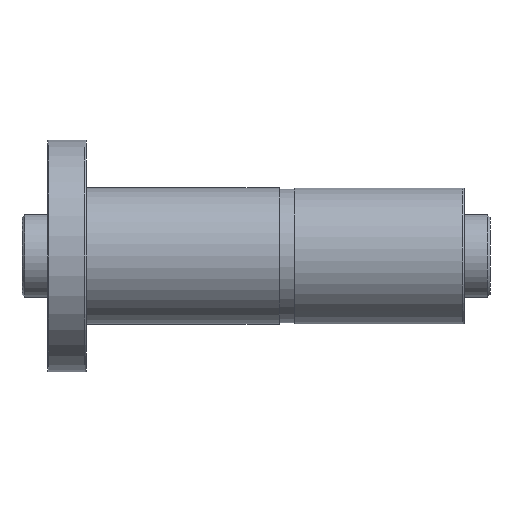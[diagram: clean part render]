
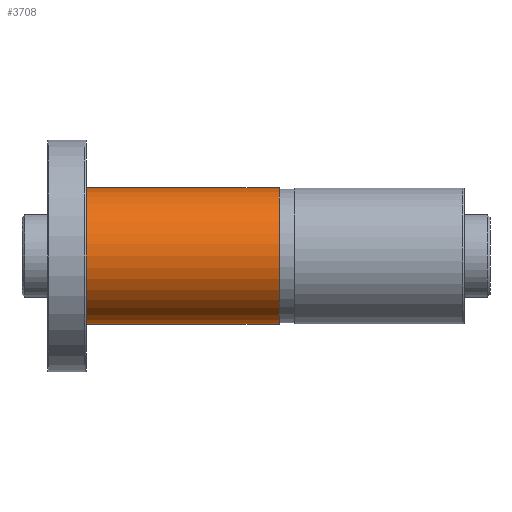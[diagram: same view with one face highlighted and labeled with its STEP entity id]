
A CAD part, front view. The second image highlights one B-rep face of the part: STEP entity #3708.
In plain terms, the highlighted cylindrical face has radius 26.5 mm (diameter 53 mm), a partial arc.
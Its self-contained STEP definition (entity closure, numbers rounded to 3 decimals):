
#3 = VECTOR ( 'NONE', #4149, 1000. ) ;
#130 = CIRCLE ( 'NONE', #582, 26.5 ) ;
#179 = CARTESIAN_POINT ( 'NONE',  ( 15., 0., -26.5 ) ) ;
#394 = VERTEX_POINT ( 'NONE', #3265 ) ;
#408 = EDGE_CURVE ( 'NONE', #1780, #3677, #3908, .T. ) ;
#567 = DIRECTION ( 'NONE',  ( 1., 0., 0. ) ) ;
#582 = AXIS2_PLACEMENT_3D ( 'NONE', #1966, #1137, #3882 ) ;
#951 = EDGE_LOOP ( 'NONE', ( #3409, #2330, #4593, #4761 ) ) ;
#1137 = DIRECTION ( 'NONE',  ( 1., 0., 0. ) ) ;
#1355 = CARTESIAN_POINT ( 'NONE',  ( 126.953, 0., 0. ) ) ;
#1369 = DIRECTION ( 'NONE',  ( -1., 0., 0. ) ) ;
#1373 = CARTESIAN_POINT ( 'NONE',  ( 15., 0., 0. ) ) ;
#1567 = EDGE_CURVE ( 'NONE', #394, #1780, #4546, .T. ) ;
#1780 = VERTEX_POINT ( 'NONE', #3761 ) ;
#1782 = EDGE_CURVE ( 'NONE', #3546, #3677, #1875, .T. ) ;
#1875 = LINE ( 'NONE', #4622, #4919 ) ;
#1966 = CARTESIAN_POINT ( 'NONE',  ( 90., 0., 0. ) ) ;
#2016 = AXIS2_PLACEMENT_3D ( 'NONE', #1373, #567, #4067 ) ;
#2131 = EDGE_CURVE ( 'NONE', #394, #3546, #130, .T. ) ;
#2330 = ORIENTED_EDGE ( 'NONE', *, *, #2131, .F. ) ;
#2500 = CYLINDRICAL_SURFACE ( 'NONE', #3222, 26.5 ) ;
#2502 = CARTESIAN_POINT ( 'NONE',  ( 126.953, 0., 26.5 ) ) ;
#3222 = AXIS2_PLACEMENT_3D ( 'NONE', #1355, #1369, #3330 ) ;
#3265 = CARTESIAN_POINT ( 'NONE',  ( 90., 0., 26.5 ) ) ;
#3330 = DIRECTION ( 'NONE',  ( 0., 0., 1. ) ) ;
#3409 = ORIENTED_EDGE ( 'NONE', *, *, #1782, .F. ) ;
#3506 = DIRECTION ( 'NONE',  ( -1., 0., 0. ) ) ;
#3546 = VERTEX_POINT ( 'NONE', #3660 ) ;
#3660 = CARTESIAN_POINT ( 'NONE',  ( 90., 0., -26.5 ) ) ;
#3677 = VERTEX_POINT ( 'NONE', #179 ) ;
#3708 = ADVANCED_FACE ( 'NONE', ( #4802 ), #2500, .T. ) ;
#3761 = CARTESIAN_POINT ( 'NONE',  ( 15., 0., 26.5 ) ) ;
#3882 = DIRECTION ( 'NONE',  ( 0., 0., -1. ) ) ;
#3908 = CIRCLE ( 'NONE', #2016, 26.5 ) ;
#4067 = DIRECTION ( 'NONE',  ( 0., 0., 1. ) ) ;
#4149 = DIRECTION ( 'NONE',  ( -1., 0., 0. ) ) ;
#4546 = LINE ( 'NONE', #2502, #3 ) ;
#4593 = ORIENTED_EDGE ( 'NONE', *, *, #1567, .T. ) ;
#4622 = CARTESIAN_POINT ( 'NONE',  ( 126.953, 0., -26.5 ) ) ;
#4761 = ORIENTED_EDGE ( 'NONE', *, *, #408, .T. ) ;
#4802 = FACE_OUTER_BOUND ( 'NONE', #951, .T. ) ;
#4919 = VECTOR ( 'NONE', #3506, 1000. ) ;
